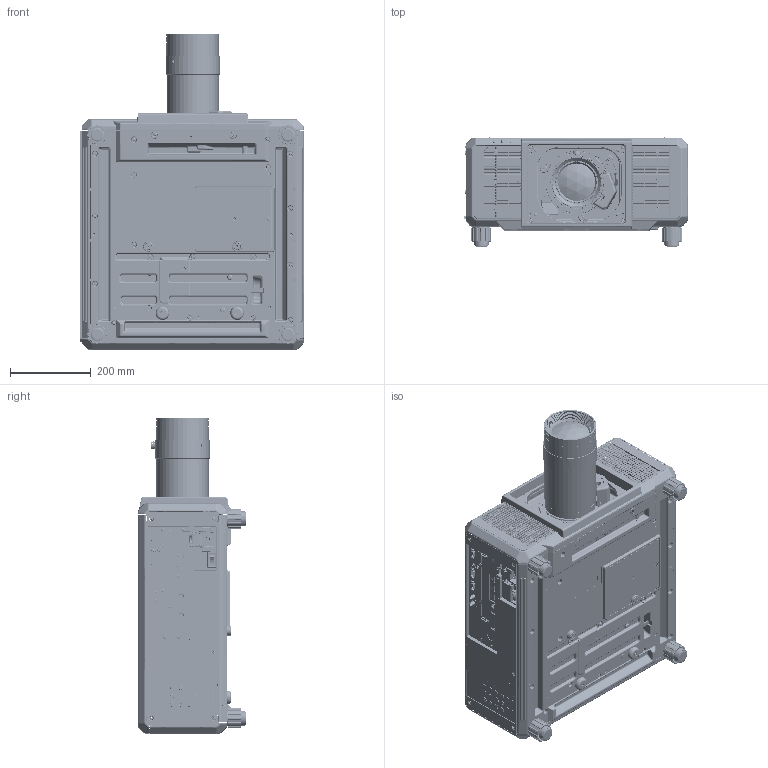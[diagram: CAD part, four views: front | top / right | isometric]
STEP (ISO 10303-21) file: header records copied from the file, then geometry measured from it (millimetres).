
FILE_DESCRIPTION(/* description */ (''),/* implementation_level */ '2;1');
FILE_NAME(/* name */ '01103109_ZA00_RQ25K_D3LEW10_FACE.stp',/* time_stamp */ '2022-12-02T16:46:22+09:00',/* author */ (''),/* organization */ (''),/* preprocessor_version */ 'ST-DEVELOPER v16',/* originating_system */ 'SIEMENS PLM Software NX 10.0',/* authorisation */ '');
FILE_SCHEMA (('AUTOMOTIVE_DESIGN { 1 0 10303 214 3 1 1 1 }'));
Products named in the file (1): 01103109_ZA00
Bounding box: 556.3 x 269 x 780.65 mm (x, y, z)
Surface area: 2005891.8 mm2 (no closed solid volume)
Topology: 0 solids, 2282 shells, 10268 faces, 47184 edges, 38619 vertices
Faces by surface type: plane 5172, cylinder 3912, torus 433, bspline 391, cone 234, sphere 124, extrusion 2
Full cylindrical faces by diameter (mm): 1.02 x2, 3 x1, 3.3 x1, 3.6 x2, 5 x2, 5.5 x1, 6 x3, 7 x2, 8 x2, 9.5 x2, 14.9 x1, 16 x1, 23.647 x1, 37.2 x4, 40 x4, 92.5 x1, 102.5 x1, 105 x1, 110.7 x1, 116.6 x1, 125.6 x1, 126.2 x1, 126.6 x1, 128.6 x2, 129 x1, 129.6 x3, 134 x1, 154 x1
Entity records: 572209 total; most frequent: CARTESIAN_POINT 133848, DIRECTION 76964, ORIENTED_EDGE 56881, EDGE_CURVE 46647, VERTEX_POINT 38460, VECTOR 26322, LINE 26320, AXIS2_PLACEMENT_3D 25321
